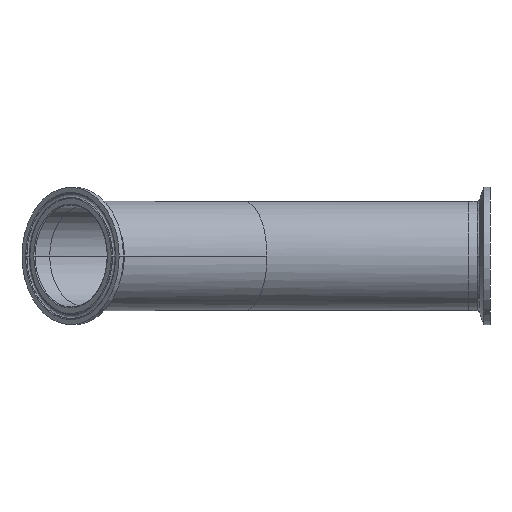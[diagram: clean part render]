
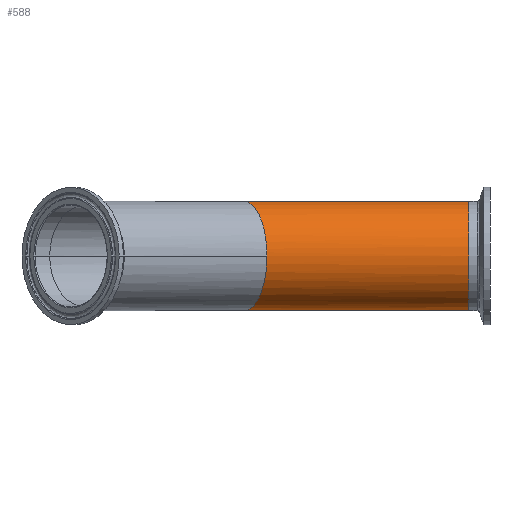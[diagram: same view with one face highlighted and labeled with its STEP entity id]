
A CAD part, left-side view. The second image highlights one B-rep face of the part: STEP entity #588.
In plain terms, the highlighted cylindrical face has radius 25.4 mm (diameter 50.8 mm), a partial arc.
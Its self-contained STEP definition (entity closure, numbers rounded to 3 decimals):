
#115 = VERTEX_POINT ( 'NONE', #2258 ) ;
#250 = ORIENTED_EDGE ( 'NONE', *, *, #3210, .T. ) ;
#258 = EDGE_CURVE ( 'NONE', #2069, #654, #429, .T. ) ;
#259 = CIRCLE ( 'NONE', #2255, 25.4 ) ;
#429 = LINE ( 'NONE', #1402, #3248 ) ;
#465 = CARTESIAN_POINT ( 'NONE',  ( -25.4, -10.521, 0. ) ) ;
#541 = CARTESIAN_POINT ( 'NONE',  ( -25.4, -10.521, 0. ) ) ;
#588 = ADVANCED_FACE ( 'NONE', ( #4381 ), #1611, .T. ) ;
#654 = VERTEX_POINT ( 'NONE', #2181 ) ;
#718 = DIRECTION ( 'NONE',  ( 0., 1., 0. ) ) ;
#846 = DIRECTION ( 'NONE',  ( 0., 0., 1. ) ) ;
#968 = CARTESIAN_POINT ( 'NONE',  ( 0., -104.3, 25.4 ) ) ;
#1108 = CARTESIAN_POINT ( 'NONE',  ( 0., -104.3, 0. ) ) ;
#1140 = DIRECTION ( 'NONE',  ( 0., 1., 0. ) ) ;
#1169 = CARTESIAN_POINT ( 'NONE',  ( -14.879, -6.163, -25.4 ) ) ;
#1228 = CARTESIAN_POINT ( 'NONE',  ( -14.879, -6.163, 25.4 ) ) ;
#1260 =( BOUNDED_CURVE ( )  B_SPLINE_CURVE ( 3, ( #2297, #1228, #2658, #541 ),
 .UNSPECIFIED., .F., .F. ) 
 B_SPLINE_CURVE_WITH_KNOTS ( ( 4, 4 ),
 ( 1.571, 3.142 ),
 .UNSPECIFIED. ) 
 CURVE ( )  GEOMETRIC_REPRESENTATION_ITEM ( )  RATIONAL_B_SPLINE_CURVE ( ( 1., 0.805, 0.805, 1. ) ) 
 REPRESENTATION_ITEM ( '' )  );
#1402 = CARTESIAN_POINT ( 'NONE',  ( 0., -104.3, -25.4 ) ) ;
#1483 = CARTESIAN_POINT ( 'NONE',  ( 0., -104.3, -25.4 ) ) ;
#1505 = EDGE_CURVE ( 'NONE', #3680, #115, #1260, .T. ) ;
#1611 = CYLINDRICAL_SURFACE ( 'NONE', #2379, 25.4 ) ;
#1733 = DIRECTION ( 'NONE',  ( 0., 1., 0. ) ) ;
#2019 = LINE ( 'NONE', #3337, #3770 ) ;
#2069 = VERTEX_POINT ( 'NONE', #1483 ) ;
#2181 = CARTESIAN_POINT ( 'NONE',  ( 0., 0., -25.4 ) ) ;
#2205 = CARTESIAN_POINT ( 'NONE',  ( -25.4, -10.521, -14.879 ) ) ;
#2211 = EDGE_CURVE ( 'NONE', #4484, #3680, #2019, .T. ) ;
#2255 = AXIS2_PLACEMENT_3D ( 'NONE', #3836, #1733, #4181 ) ;
#2258 = CARTESIAN_POINT ( 'NONE',  ( -25.4, -10.521, 0. ) ) ;
#2297 = CARTESIAN_POINT ( 'NONE',  ( 0., 0., 25.4 ) ) ;
#2379 = AXIS2_PLACEMENT_3D ( 'NONE', #1108, #1140, #846 ) ;
#2455 = EDGE_LOOP ( 'NONE', ( #3375, #3834, #4154, #3199, #250 ) ) ;
#2658 = CARTESIAN_POINT ( 'NONE',  ( -25.4, -10.521, 14.879 ) ) ;
#2954 = EDGE_CURVE ( 'NONE', #2069, #4484, #259, .T. ) ;
#3199 = ORIENTED_EDGE ( 'NONE', *, *, #1505, .T. ) ;
#3210 = EDGE_CURVE ( 'NONE', #115, #654, #4156, .T. ) ;
#3248 = VECTOR ( 'NONE', #718, 1000. ) ;
#3337 = CARTESIAN_POINT ( 'NONE',  ( 0., -104.3, 25.4 ) ) ;
#3357 = DIRECTION ( 'NONE',  ( 0., 1., 0. ) ) ;
#3375 = ORIENTED_EDGE ( 'NONE', *, *, #258, .F. ) ;
#3409 = CARTESIAN_POINT ( 'NONE',  ( 0., 0., 25.4 ) ) ;
#3618 = CARTESIAN_POINT ( 'NONE',  ( 0., 0., -25.4 ) ) ;
#3680 = VERTEX_POINT ( 'NONE', #3409 ) ;
#3770 = VECTOR ( 'NONE', #3357, 1000. ) ;
#3834 = ORIENTED_EDGE ( 'NONE', *, *, #2954, .T. ) ;
#3836 = CARTESIAN_POINT ( 'NONE',  ( 0., -104.3, 0. ) ) ;
#4154 = ORIENTED_EDGE ( 'NONE', *, *, #2211, .T. ) ;
#4156 =( BOUNDED_CURVE ( )  B_SPLINE_CURVE ( 3, ( #465, #2205, #1169, #3618 ),
 .UNSPECIFIED., .F., .T. ) 
 B_SPLINE_CURVE_WITH_KNOTS ( ( 4, 4 ),
 ( 3.142, 4.712 ),
 .UNSPECIFIED. ) 
 CURVE ( )  GEOMETRIC_REPRESENTATION_ITEM ( )  RATIONAL_B_SPLINE_CURVE ( ( 1., 0.805, 0.805, 1. ) ) 
 REPRESENTATION_ITEM ( '' )  );
#4181 = DIRECTION ( 'NONE',  ( 0., 0., 1. ) ) ;
#4381 = FACE_OUTER_BOUND ( 'NONE', #2455, .T. ) ;
#4484 = VERTEX_POINT ( 'NONE', #968 ) ;
